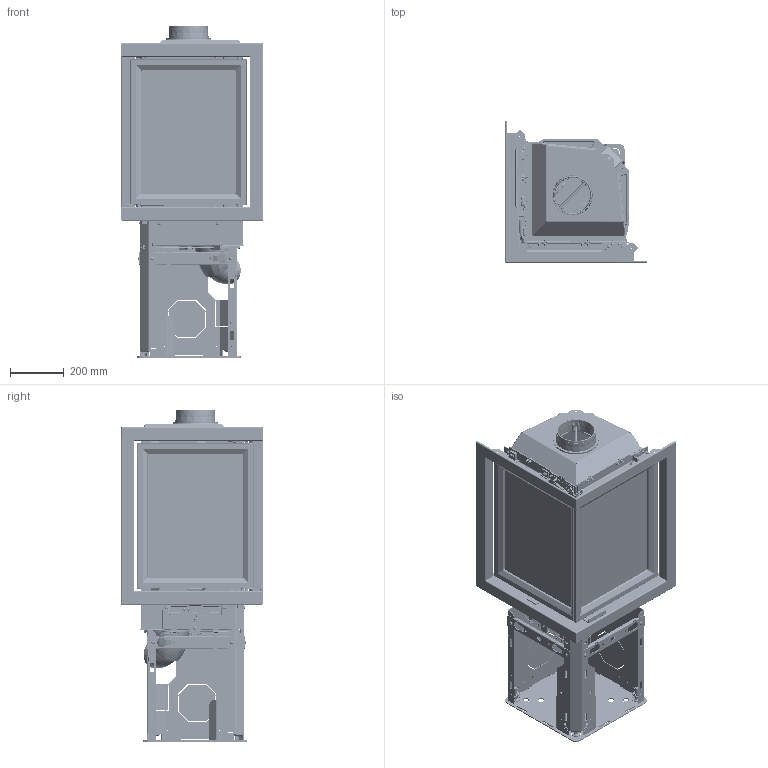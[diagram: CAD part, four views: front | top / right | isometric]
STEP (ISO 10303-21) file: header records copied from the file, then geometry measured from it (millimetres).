
FILE_DESCRIPTION(/* description */ ('Unknown'),/* implementation_level */ '2;1');
FILE_NAME(/* name */ 'Ci400 2026-08-10',/* time_stamp */ '2026-08-10T10:32:44+02:00',/* author */ ('Unknown'),/* organization */ ('Unknown'),/* preprocessor_version */ 'ST-DEVELOPER v20',/* originating_system */ 'Solid Edge',/* authorisation */ 'Unknown');
FILE_SCHEMA (('AUTOMOTIVE_DESIGN {1 0 10303 214 3 1 1}'));
Products named in the file (270): DSN1136011; DSN1125255; DSN1125170; DSN1128149; DSN1125189; DSN1125253; DSN1135960_oa_0; DSN1123123_oa_1; DSN1130404; DSN1089377; DSN1104774_oa_2; DSN1089373; DSN1099386; DSN1089374_oa_3; DSN1089386; DSN1074449; DSN1089387; DSN1123089_oa_4; DSN1089428; DSN1083847; FilletWeld_3; DSN1089429; FilletWeld_1; DSN1023399; DSN1083862; DSN1067626; FilletWeld_4; FilletWeld_5; DSN1121543; 416213 Blindnitmutter Sluten M10; DSN1121540; DSN1121542; DSN1121560; 016710 Skruv M6SF TT M6x16 fzb; 803700 Ställbar fot M10 kort; ExtrudedProtrusion_1; DSN1125092; ExtrudedProtrusion_2; ExtrudedProtrusion_3; FilletWeld_2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
Assembly tree (410 placements, depth 7):
  DSN1136011
    DSN1125255
      DSN1125170
      DSN1128149
      DSN1125189
      DSN1125253
    DSN1135960_oa_0
      DSN1123123_oa_1
        DSN1130404
          DSN1089377
            DSN1104774_oa_2
            DSN1089373
            DSN1099386
            DSN1089374_oa_3
            DSN1089386
            DSN1074449  x2
            DSN1089387
            DSN1123089_oa_4
            DSN1089428
            DSN1083847
            FilletWeld_3
            DSN1089429
            FilletWeld_1
            DSN1023399  x2
            DSN1083862
            DSN1067626
            FilletWeld_4
            FilletWeld_5
            DSN1121543
              416213 Blindnitmutter Sluten M10  x4
              DSN1121540
              DSN1121542
              DSN1121560
              016710 Skruv M6SF TT M6x16 fzb  x4
              FilletWeld_1
              803700 Ställbar fot M10 kort  x4
              ExtrudedProtrusion_1
              DSN1125092  x2
              ExtrudedProtrusion_2
              ExtrudedProtrusion_3
              FilletWeld_2
            FilletWeld_6
            FilletWeld_9
            FilletWeld_12
            FilletWeld_17
            FilletWeld_23
            GrooveWeld_1
            GrooveWeld_2
            DSN1121563
            GrooveWeld_4
            FilletWeld_25
            FilletWeld_26
            GrooveWeld_10
            FilletWeld_30
            GrooveWeld_18
            GrooveWeld_17
            GrooveWeld_16
            GrooveWeld_15
            GrooveWeld_14
            GrooveWeld_19
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Bounding box: 528.5 x 528.5 x 1236.6 mm (x, y, z)
Volume: 22228547.9 mm3; surface area: 9095168.9 mm2
Topology: 496 solids, 497 shells, 16691 faces, 41355 edges, 25441 vertices
Faces by surface type: plane 7601, cylinder 4903, bspline 1714, torus 1157, cone 945, sphere 371
Full cylindrical faces by diameter (mm): 1.5 x2, 3.242 x6, 3.291 x60, 3.3 x8, 3.4 x2, 3.5 x28, 3.65 x8, 3.8 x8, 4 x82, 4.134 x8, 4.15 x4, 4.2 x56, 4.3 x11, 4.334 x4, 4.5 x29, 4.6 x8, 4.8 x2, 4.917 x24, 5 x52, 5.2 x5, 5.3 x2, 5.5 x6, 5.6 x38, 5.7 x1, 5.8 x4, 5.9 x4, 6 x49, 6.1 x6, 6.3 x2, 6.5 x9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
Entity records: 413601 total; most frequent: CARTESIAN_POINT 127777, ORIENTED_EDGE 57056, DIRECTION 56164, EDGE_CURVE 28528, AXIS2_PLACEMENT_3D 19663, VERTEX_POINT 18091, LINE 16838, VECTOR 16838
